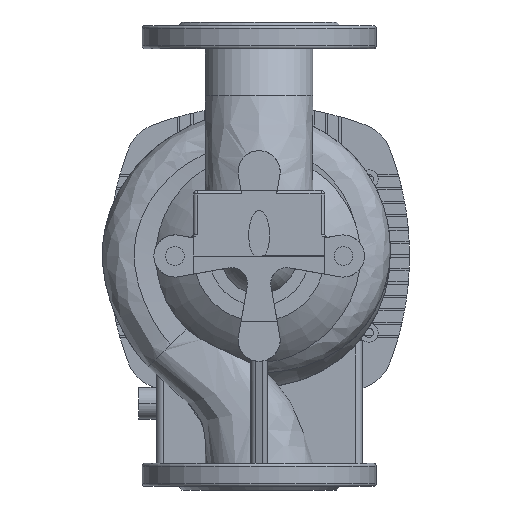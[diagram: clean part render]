
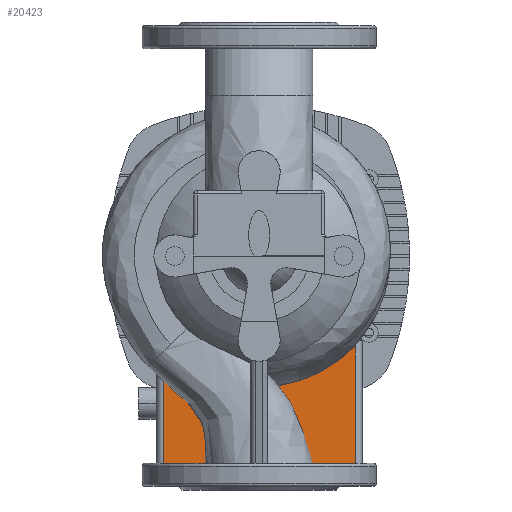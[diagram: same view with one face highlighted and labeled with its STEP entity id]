
A CAD part, front view. The second image highlights one B-rep face of the part: STEP entity #20423.
In plain terms, the highlighted planar face has unit normal (0, -1, 0) as drawn and (0, 0, 1) by its records, which use the part's own axes.
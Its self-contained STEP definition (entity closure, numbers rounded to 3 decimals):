
#57 = CARTESIAN_POINT ( 'NONE',  ( 0., -423., -140.5 ) ) ;
#1448 = LINE ( 'NONE', #12398, #16500 ) ;
#1456 = CARTESIAN_POINT ( 'NONE',  ( -82., 72.569, -140.5 ) ) ;
#2047 = VERTEX_POINT ( 'NONE', #5531 ) ;
#3619 = AXIS2_PLACEMENT_3D ( 'NONE', #5058, #13584, #15975 ) ;
#4193 = DIRECTION ( 'NONE',  ( 0., 1., 0. ) ) ;
#5058 = CARTESIAN_POINT ( 'NONE',  ( 68., 128.5, -140.5 ) ) ;
#5531 = CARTESIAN_POINT ( 'NONE',  ( 82., 72.569, -140.5 ) ) ;
#7268 = VERTEX_POINT ( 'NONE', #13918 ) ;
#10135 = DIRECTION ( 'NONE',  ( 1., 0., 0. ) ) ;
#10872 = CARTESIAN_POINT ( 'NONE',  ( -82., 178.436, -140.5 ) ) ;
#11209 = ORIENTED_EDGE ( 'NONE', *, *, #25606, .T. ) ;
#12398 = CARTESIAN_POINT ( 'NONE',  ( -82., 128.5, -140.5 ) ) ;
#12514 = EDGE_CURVE ( 'NONE', #26787, #25586, #1448, .T. ) ;
#12557 = CARTESIAN_POINT ( 'NONE',  ( 0., 0., -140.5 ) ) ;
#12672 = ORIENTED_EDGE ( 'NONE', *, *, #21814, .T. ) ;
#13584 = DIRECTION ( 'NONE',  ( 0., 0., 1. ) ) ;
#13918 = CARTESIAN_POINT ( 'NONE',  ( 82., 178.436, -140.5 ) ) ;
#14894 = ORIENTED_EDGE ( 'NONE', *, *, #26710, .T. ) ;
#15101 = VECTOR ( 'NONE', #4193, 1000. ) ;
#15975 = DIRECTION ( 'NONE',  ( 0., -1., 0. ) ) ;
#16500 = VECTOR ( 'NONE', #25350, 1000. ) ;
#18271 = AXIS2_PLACEMENT_3D ( 'NONE', #57, #22084, #26089 ) ;
#18688 = AXIS2_PLACEMENT_3D ( 'NONE', #12557, #23059, #10135 ) ;
#19182 = CIRCLE ( 'NONE', #18271, 607. ) ;
#19592 = CIRCLE ( 'NONE', #18688, 109.5 ) ;
#20423 = ADVANCED_FACE ( 'NONE', ( #26807 ), #26542, .T. ) ;
#21354 = EDGE_LOOP ( 'NONE', ( #11209, #12672, #14894, #23475 ) ) ;
#21525 = LINE ( 'NONE', #25144, #15101 ) ;
#21814 = EDGE_CURVE ( 'NONE', #2047, #7268, #21525, .T. ) ;
#22084 = DIRECTION ( 'NONE',  ( 0., 0., 1. ) ) ;
#23059 = DIRECTION ( 'NONE',  ( 0., 0., -1. ) ) ;
#23475 = ORIENTED_EDGE ( 'NONE', *, *, #12514, .T. ) ;
#25144 = CARTESIAN_POINT ( 'NONE',  ( 82., 128.5, -140.5 ) ) ;
#25350 = DIRECTION ( 'NONE',  ( 0., -1., 0. ) ) ;
#25586 = VERTEX_POINT ( 'NONE', #1456 ) ;
#25606 = EDGE_CURVE ( 'NONE', #25586, #2047, #19592, .T. ) ;
#26089 = DIRECTION ( 'NONE',  ( 0., -1., 0. ) ) ;
#26542 = PLANE ( 'NONE',  #3619 ) ;
#26710 = EDGE_CURVE ( 'NONE', #7268, #26787, #19182, .T. ) ;
#26787 = VERTEX_POINT ( 'NONE', #10872 ) ;
#26807 = FACE_OUTER_BOUND ( 'NONE', #21354, .T. ) ;
